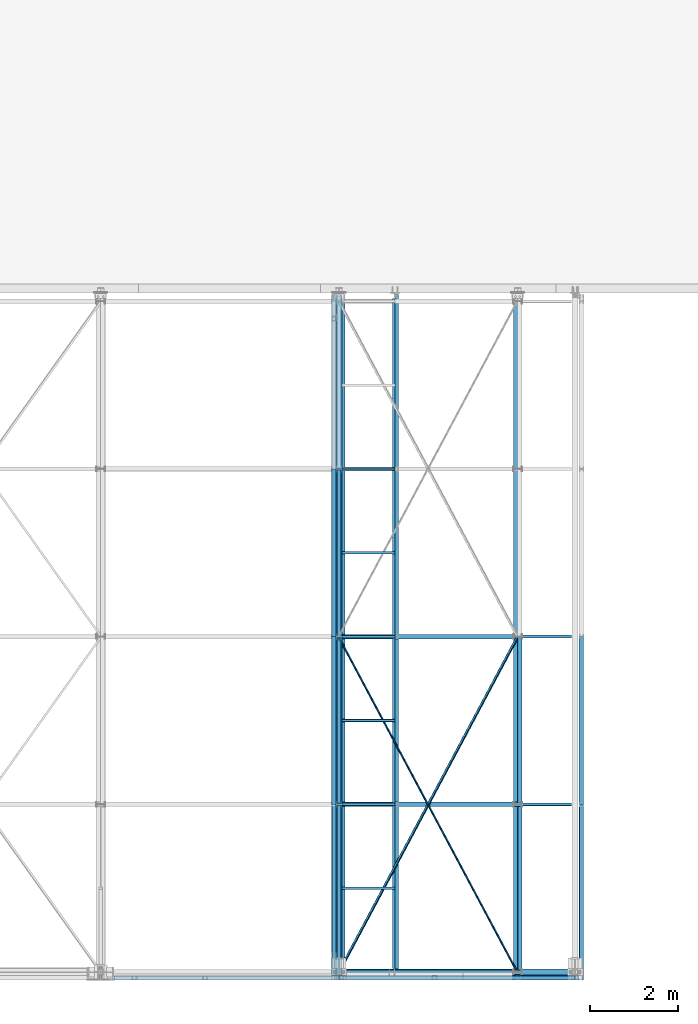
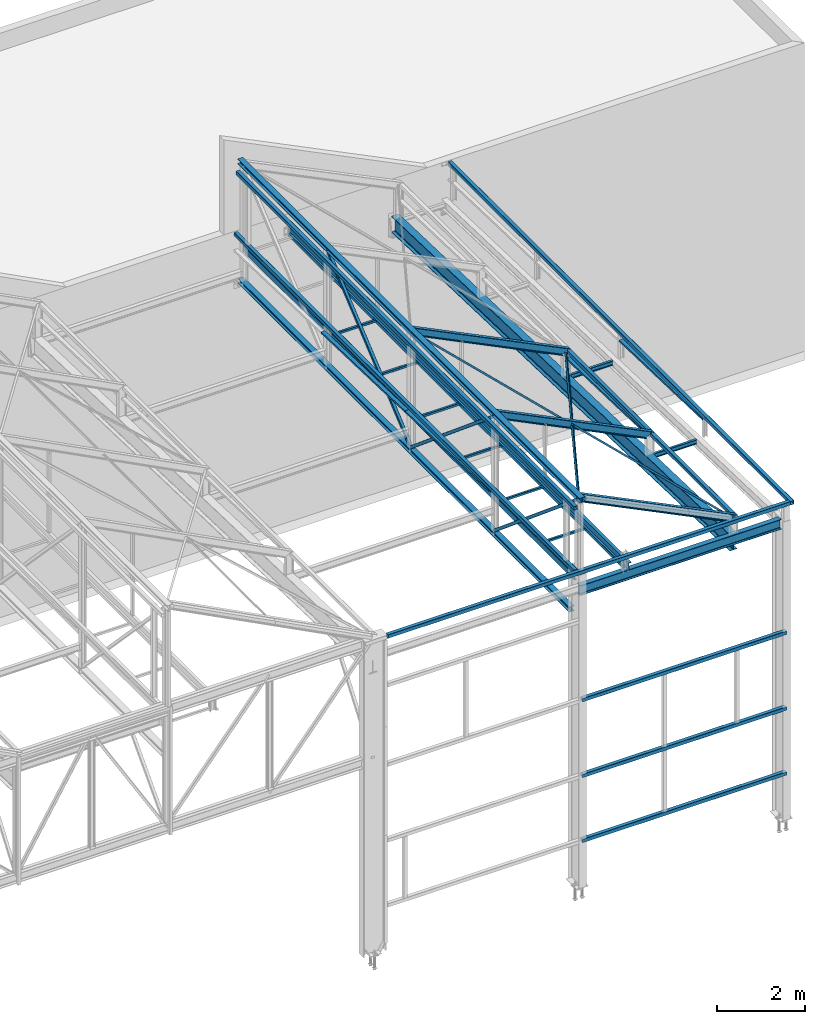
# One storey, part 36 of 123: 31 beams, 6 members, 37 elements without a shape of their own.
"""IFC2X3 building model written with IfcOpenShell, lengths in millimetres."""

from ifc_helpers import new_model, si_unit, frame, origin_with_axes, origin_2d_with_axis, place, context, subcontext, project, spatial, polyline, hollow_rectangle, i_section, l_section, u_section, outline, extrude, boolean, clip, halfspace, material, type_object, element, aggregate, save


model = new_model("IFC2X3")

# Units and contexts
model_context = context("Model", 3, precision=1e-05, world=origin_with_axes())
body_context = subcontext(model_context, "Body", "Model", "MODEL_VIEW")
ifc_project = project(units=[si_unit("LENGTHUNIT", "METRE", prefix="MILLI"), si_unit("AREAUNIT", "SQUARE_METRE"), si_unit("VOLUMEUNIT", "CUBIC_METRE"), si_unit("MASSUNIT", "GRAM", prefix="KILO"), si_unit("TIMEUNIT", "SECOND"), si_unit("PLANEANGLEUNIT", "RADIAN"), si_unit("SOLIDANGLEUNIT", "STERADIAN"), si_unit("THERMODYNAMICTEMPERATUREUNIT", "DEGREE_CELSIUS"), si_unit("LUMINOUSINTENSITYUNIT", "LUMEN")], contexts=[model_context])

# Site, building, storey
site_placement = place(None, origin_with_axes())
site = spatial("IfcSite", under=ifc_project, at=site_placement, Name="Undefined", CompositionType="ELEMENT")
building_placement = place(site_placement, origin_with_axes())
building = spatial("IfcBuilding", under=site, at=building_placement, Name="Undefined", CompositionType="ELEMENT")
storey_placement = place(building_placement, origin_with_axes())
storey = spatial("IfcBuildingStorey", under=building, at=storey_placement, Name="Undefined", CompositionType="ELEMENT", Elevation=0.0)

# Assembly, beam
assembly_1_placement = place(storey_placement, origin_with_axes())
assembly_1 = element("IfcElementAssembly", 1, at=assembly_1_placement, inside=storey, Name="Steel Assembly", AssemblyPlace="NOTDEFINED", PredefinedType="RIGID_FRAME")
ifc_material_1 = material(Name="STEEL/S235-E24")
beam_type_1 = type_object("IfcBeamType", Name="UPF-100*50*4", PredefinedType="NOTDEFINED")
beam_1_placement = place(assembly_1_placement, frame((39775.0000000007, 3799.99999999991, 8410.85601504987), z_axis=(1.0, 0.0, 0.0), x_axis=(0.0, 0.999506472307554, -0.0314135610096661)))
beam_1 = element("IfcBeam", 2, at=beam_1_placement, type_object=beam_type_1, material=ifc_material_1, Name="LISSE CONTREBARDAGE", ObjectType="UPF-100*50*4", context=body_context, shape_type="SweptSolid", body=[
    extrude(u_section(Depth=100.0, FlangeWidth=50.0, WebThickness=4.0, FlangeThickness=4.0, at=origin_2d_with_axis()), frame((3801.87643069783, 2.63808171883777e-14, 0.0), z_axis=(-1.0, 0.0, 0.0), x_axis=(0.0, -1.0, 0.0)), (0.0, 0.0, 1.0), 3801.9),
])
aggregate(assembly_1, [beam_1])

assembly_2_placement = place(storey_placement, origin_with_axes())
assembly_2 = element("IfcElementAssembly", 3, at=assembly_2_placement, inside=storey, Name="Steel Assembly", AssemblyPlace="NOTDEFINED", PredefinedType="RIGID_FRAME")
beam_2_placement = place(assembly_2_placement, frame((34163.5000000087, 7600.0, 8291.42237510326), z_axis=(1.0, 0.0, 0.0), x_axis=(0.0, 0.999506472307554, -0.0314135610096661)))
beam_2 = element("IfcBeam", 4, at=beam_2_placement, type_object=beam_type_1, material=ifc_material_1, Name="LISSE CONTREBARDAGE", ObjectType="UPF-100*50*4", context=body_context, shape_type="SweptSolid", body=[
    extrude(u_section(Depth=100.0, FlangeWidth=50.0, WebThickness=4.0, FlangeThickness=4.0, at=origin_2d_with_axis()), frame((3801.87643069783, 2.63808171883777e-14, 0.0), z_axis=(-1.0, 0.0, 0.0), x_axis=(0.0, -1.0, 0.0)), (0.0, 0.0, 1.0), 3801.9),
])
aggregate(assembly_2, [beam_2])

assembly_3_placement = place(storey_placement, origin_with_axes())
assembly_3 = element("IfcElementAssembly", 5, at=assembly_3_placement, inside=storey, Name="Steel Assembly", AssemblyPlace="NOTDEFINED", PredefinedType="RIGID_FRAME")
beam_3_placement = place(assembly_3_placement, frame((34163.5000000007, 3800.0, 8410.85601504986), z_axis=(1.0, 0.0, 0.0), x_axis=(0.0, 0.999506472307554, -0.0314135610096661)))
beam_3 = element("IfcBeam", 6, at=beam_3_placement, type_object=beam_type_1, material=ifc_material_1, Name="LISSE CONTREBARDAGE", ObjectType="UPF-100*50*4", context=body_context, shape_type="SweptSolid", body=[
    extrude(u_section(Depth=100.0, FlangeWidth=50.0, WebThickness=4.0, FlangeThickness=4.0, at=origin_2d_with_axis()), frame((3801.87643069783, 2.63808171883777e-14, 0.0), z_axis=(-1.0, 0.0, 0.0), x_axis=(0.0, -1.0, 0.0)), (0.0, 0.0, 1.0), 3801.9),
])
aggregate(assembly_3, [beam_3])

assembly_4_placement = place(storey_placement, origin_with_axes())
assembly_4 = element("IfcElementAssembly", 7, at=assembly_4_placement, inside=storey, Name="Steel Assembly", AssemblyPlace="NOTDEFINED", PredefinedType="RIGID_FRAME")
beam_4_placement = place(assembly_4_placement, frame((38380.0000000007, 3800.0, 8410.85601504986), z_axis=(1.0, 0.0, 0.0), x_axis=(0.0, 0.999506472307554, -0.0314135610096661)))
beam_4 = element("IfcBeam", 8, at=beam_4_placement, type_object=beam_type_1, material=ifc_material_1, Name="LISSE CONTREBARDAGE", ObjectType="UPF-100*50*4", context=body_context, shape_type="SweptSolid", body=[
    extrude(u_section(Depth=100.0, FlangeWidth=50.0, WebThickness=4.0, FlangeThickness=4.0, at=origin_2d_with_axis()), frame((3801.87643069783, 2.63808171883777e-14, 0.0), z_axis=(-1.0, 0.0, 0.0), x_axis=(0.0, -1.0, 0.0)), (0.0, 0.0, 1.0), 3801.9),
])
aggregate(assembly_4, [beam_4])

assembly_5_placement = place(storey_placement, origin_with_axes())
assembly_5 = element("IfcElementAssembly", 9, at=assembly_5_placement, inside=storey, Name="Steel Assembly", AssemblyPlace="NOTDEFINED", PredefinedType="RIGID_FRAME")
beam_5_placement = place(assembly_5_placement, frame((39775.0000000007, 3798.76352446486, 8410.85601504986), z_axis=(1.0, 0.0, 0.0), x_axis=(0.0, 0.999506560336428, -0.0314107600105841)))
beam_5 = element("IfcBeam", 10, at=beam_5_placement, type_object=beam_type_1, material=ifc_material_1, Name="LISSE CONTREBARDAGE", ObjectType="UPF-100*50*4", context=body_context, shape_type="SweptSolid", body=[
    extrude(u_section(Depth=100.0, FlangeWidth=50.0, WebThickness=4.0, FlangeThickness=4.0, at=origin_2d_with_axis()), frame((3802.31626691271, 0.0, 0.0), z_axis=(-1.0, 0.0, 0.0), x_axis=(0.0, -1.0, 0.0)), (0.0, 0.0, 1.0), 3802.3),
])
aggregate(assembly_5, [beam_5])

assembly_6_placement = place(storey_placement, origin_with_axes())
assembly_6 = element("IfcElementAssembly", 11, at=assembly_6_placement, inside=storey, Name="Steel Assembly", AssemblyPlace="NOTDEFINED", PredefinedType="RIGID_FRAME")
ifc_material_2 = material(Name="STEEL/S275-E28")
beam_type_2 = type_object("IfcBeamType", Name="IPE450", PredefinedType="NOTDEFINED")
beam_6_placement = place(assembly_6_placement, frame((38330.0000000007, -3.57705051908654, 7825.00320784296), z_axis=(0.0, -0.0314107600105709, -0.999506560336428), x_axis=(0.0, 0.999506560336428, -0.0314107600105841)))
beam_6 = element("IfcBeam", 12, at=beam_6_placement, type_object=beam_type_2, material=ifc_material_2, Name="TRAVERSE", ObjectType="IPE450", context=body_context, shape_type="Clipping", body=[
    clip(extrude(i_section(OverallWidth=190.0, OverallDepth=450.0, WebThickness=9.399999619, FlangeThickness=14.60000038, FilletRadius=21.0, at=origin_2d_with_axis()), frame((15385.9266054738, 0.0, 1.06761312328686e-13), z_axis=(-1.0, 0.0, 0.0), x_axis=(0.0, -1.0, 0.0)), (0.0, 0.0, 1.0), 15385.9), halfspace(frame((15354.5342497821, -9.60426405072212e-10, -263.091456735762), z_axis=(-0.999390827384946, 0.0, 0.0348994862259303), x_axis=(0.0, 1.0, 0.0)), True)),
])
aggregate(assembly_6, [beam_6])

assembly_7_placement = place(storey_placement, origin_with_axes())
assembly_7 = element("IfcElementAssembly", 13, at=assembly_7_placement, inside=storey, Name="Steel Assembly", AssemblyPlace="NOTDEFINED", PredefinedType="RIGID_FRAME")
beam_type_3 = type_object("IfcBeamType", Name="TUBE-C-60*60*3", PredefinedType="NOTDEFINED")
beam_7_placement = place(assembly_7_placement, frame((34351.5001701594, 9500.0, 8015.0), z_axis=(0.0, -1.0, 0.0), x_axis=(1.0, 0.0, 0.0)))
beam_7 = element("IfcBeam", 14, at=beam_7_placement, type_object=beam_type_3, material=ifc_material_1, Name="SOLIVE", ObjectType="TUBE-C-60*60*3", context=body_context, shape_type="SweptSolid", body=[
    extrude(hollow_rectangle(XDim=60.0, YDim=60.0, WallThickness=3.0, InnerFilletRadius=3.0, OuterFilletRadius=6.0, at=origin_2d_with_axis()), frame((1194.99154388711, 0.0, 0.0), z_axis=(-1.0, 0.0, 0.0), x_axis=(0.0, -1.0, 0.0)), (0.0, 0.0, 1.0), 1195.0),
])
aggregate(assembly_7, [beam_7])

assembly_8_placement = place(storey_placement, origin_with_axes())
assembly_8 = element("IfcElementAssembly", 15, at=assembly_8_placement, inside=storey, Name="Steel Assembly", AssemblyPlace="NOTDEFINED", PredefinedType="RIGID_FRAME")
beam_8_placement = place(assembly_8_placement, frame((34351.5001701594, 5700.0, 8015.0), z_axis=(0.0, -1.0, 0.0), x_axis=(1.0, 0.0, 0.0)))
beam_8 = element("IfcBeam", 16, at=beam_8_placement, type_object=beam_type_3, material=ifc_material_1, Name="SOLIVE", ObjectType="TUBE-C-60*60*3", context=body_context, shape_type="SweptSolid", body=[
    extrude(hollow_rectangle(XDim=60.0, YDim=60.0, WallThickness=3.0, InnerFilletRadius=3.0, OuterFilletRadius=6.0, at=origin_2d_with_axis()), frame((1194.99154388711, 0.0, 0.0), z_axis=(-1.0, 0.0, 0.0), x_axis=(0.0, -1.0, 0.0)), (0.0, 0.0, 1.0), 1195.0),
])
aggregate(assembly_8, [beam_8])

assembly_9_placement = place(storey_placement, origin_with_axes())
assembly_9 = element("IfcElementAssembly", 17, at=assembly_9_placement, inside=storey, Name="Steel Assembly", AssemblyPlace="NOTDEFINED", PredefinedType="RIGID_FRAME")
beam_9_placement = place(assembly_9_placement, frame((34351.5001701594, 1900.0, 8015.0), z_axis=(0.0, -1.0, 0.0), x_axis=(1.0, 0.0, 0.0)))
beam_9 = element("IfcBeam", 18, at=beam_9_placement, type_object=beam_type_3, material=ifc_material_1, Name="SOLIVE", ObjectType="TUBE-C-60*60*3", context=body_context, shape_type="SweptSolid", body=[
    extrude(hollow_rectangle(XDim=60.0, YDim=60.0, WallThickness=3.0, InnerFilletRadius=3.0, OuterFilletRadius=6.0, at=origin_2d_with_axis()), frame((1194.99154388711, 0.0, 0.0), z_axis=(-1.0, 0.0, 0.0), x_axis=(0.0, -1.0, 0.0)), (0.0, 0.0, 1.0), 1195.0),
])
aggregate(assembly_9, [beam_9])

assembly_10_placement = place(storey_placement, origin_with_axes())
assembly_10 = element("IfcElementAssembly", 19, at=assembly_10_placement, inside=storey, Name="Steel Assembly", AssemblyPlace="NOTDEFINED", PredefinedType="RIGID_FRAME")
beam_10_placement = place(assembly_10_placement, frame((34351.5001701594, 11400.0, 8015.0), z_axis=(0.0, -1.0, 0.0), x_axis=(1.0, 0.0, 0.0)))
beam_10 = element("IfcBeam", 20, at=beam_10_placement, type_object=beam_type_3, material=ifc_material_1, Name="SOLIVE", ObjectType="TUBE-C-60*60*3", context=body_context, shape_type="SweptSolid", body=[
    extrude(hollow_rectangle(XDim=60.0, YDim=60.0, WallThickness=3.0, InnerFilletRadius=3.0, OuterFilletRadius=6.0, at=origin_2d_with_axis()), frame((1194.99154388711, 0.0, 0.0), z_axis=(-1.0, 0.0, 0.0), x_axis=(0.0, -1.0, 0.0)), (0.0, 0.0, 1.0), 1195.0),
])
aggregate(assembly_10, [beam_10])

assembly_11_placement = place(storey_placement, origin_with_axes())
assembly_11 = element("IfcElementAssembly", 21, at=assembly_11_placement, inside=storey, Name="Steel Assembly", AssemblyPlace="NOTDEFINED", PredefinedType="RIGID_FRAME")
beam_11_placement = place(assembly_11_placement, frame((34351.5001701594, 7600.0, 8015.0), z_axis=(0.0, -1.0, 0.0), x_axis=(1.0, 0.0, 0.0)))
beam_11 = element("IfcBeam", 22, at=beam_11_placement, type_object=beam_type_3, material=ifc_material_1, Name="SOLIVE", ObjectType="TUBE-C-60*60*3", context=body_context, shape_type="SweptSolid", body=[
    extrude(hollow_rectangle(XDim=60.0, YDim=60.0, WallThickness=3.0, InnerFilletRadius=3.0, OuterFilletRadius=6.0, at=origin_2d_with_axis()), frame((1194.99154388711, 0.0, 0.0), z_axis=(-1.0, 0.0, 0.0), x_axis=(0.0, -1.0, 0.0)), (0.0, 0.0, 1.0), 1195.0),
])
aggregate(assembly_11, [beam_11])

assembly_12_placement = place(storey_placement, origin_with_axes())
assembly_12 = element("IfcElementAssembly", 23, at=assembly_12_placement, inside=storey, Name="Steel Assembly", AssemblyPlace="NOTDEFINED", PredefinedType="RIGID_FRAME")
beam_12_placement = place(assembly_12_placement, frame((34351.5001701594, 3800.0, 8015.0), z_axis=(0.0, -1.0, 0.0), x_axis=(1.0, 0.0, 0.0)))
beam_12 = element("IfcBeam", 24, at=beam_12_placement, type_object=beam_type_3, material=ifc_material_1, Name="SOLIVE", ObjectType="TUBE-C-60*60*3", context=body_context, shape_type="SweptSolid", body=[
    extrude(hollow_rectangle(XDim=60.0, YDim=60.0, WallThickness=3.0, InnerFilletRadius=3.0, OuterFilletRadius=6.0, at=origin_2d_with_axis()), frame((1194.99154388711, 0.0, 0.0), z_axis=(-1.0, 0.0, 0.0), x_axis=(0.0, -1.0, 0.0)), (0.0, 0.0, 1.0), 1195.0),
])
aggregate(assembly_12, [beam_12])

assembly_13_placement = place(storey_placement, origin_with_axes())
assembly_13 = element("IfcElementAssembly", 25, at=assembly_13_placement, inside=storey, Name="Steel Assembly", AssemblyPlace="NOTDEFINED", PredefinedType="RIGID_FRAME")
beam_type_4 = type_object("IfcBeamType", Name="UPF-300*82.5*6", PredefinedType="NOTDEFINED")
beam_13_placement = place(assembly_13_placement, frame((35587.7417140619, 15360.0000093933, 8090.0), z_axis=(0.0, 0.0, -1.0), x_axis=(0.0, -1.0, 0.0)))
beam_13 = element("IfcBeam", 26, at=beam_13_placement, type_object=beam_type_4, material=ifc_material_1, Name="LONGERON", ObjectType="UPF-300*82.5*6", context=body_context, shape_type="CSG", body=[
    boolean("DIFFERENCE", extrude(u_section(Depth=300.0, FlangeWidth=82.5, WebThickness=6.0, FlangeThickness=6.0, at=origin_2d_with_axis()), frame((15430.0000255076, 0.0, 0.0), z_axis=(-1.0, 0.0, 0.0), x_axis=(0.0, -1.0, 0.0)), (0.0, 0.0, 1.0), 15430.0), extrude(outline(polyline([(0.0, 0.0), (110.0, 0.0), (110.0, 150.000183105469), (0.0, 150.000183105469), (0.0, 0.0)])), frame((15279.9998398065, -44.0, 40.0), z_axis=(0.0, 1.0, 0.0), x_axis=(0.0, 0.0, 1.0)), (0.0, 0.0, 1.0), 88.0)),
])
aggregate(assembly_13, [beam_13])

assembly_14_placement = place(storey_placement, origin_with_axes())
assembly_14 = element("IfcElementAssembly", 27, at=assembly_14_placement, inside=storey, Name="Steel Assembly", AssemblyPlace="NOTDEFINED", PredefinedType="RIGID_FRAME")
beam_type_5 = type_object("IfcBeamType", Name="TUBE-C-100*100*4", PredefinedType="NOTDEFINED")
beam_14_placement = place(assembly_14_placement, frame((34163.4999999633, -70.0000009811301, 10254.999999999), z_axis=(0.0, 0.0, -1.0), x_axis=(0.0, 1.0, 0.0)))
beam_14 = element("IfcBeam", 28, at=beam_14_placement, type_object=beam_type_5, material=ifc_material_1, Name="LISSE ACROTERE", ObjectType="TUBE-C-100*100*4", context=body_context, shape_type="SweptSolid", body=[
    extrude(hollow_rectangle(XDim=100.0, YDim=100.0, WallThickness=4.0, InnerFilletRadius=4.0, OuterFilletRadius=8.0, at=origin_2d_with_axis()), frame((15340.0000000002, 0.0, 0.0), z_axis=(-1.0, 0.0, 0.0), x_axis=(0.0, -1.0, 0.0)), (0.0, 0.0, 1.0), 15340.0),
])
aggregate(assembly_14, [beam_14])

assembly_15_placement = place(storey_placement, origin_with_axes())
assembly_15 = element("IfcElementAssembly", 29, at=assembly_15_placement, inside=storey, Name="Steel Assembly", AssemblyPlace="NOTDEFINED", PredefinedType="RIGID_FRAME")
beam_15_placement = place(assembly_15_placement, frame((34279.9999997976, -129.999801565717, 4949.99999999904), z_axis=(0.0, 0.0, 1.0), x_axis=(1.0, 0.0, 0.0)))
beam_15 = element("IfcBeam", 30, at=beam_15_placement, type_object=beam_type_5, material=ifc_material_1, Name="LISSE CHASSIS", ObjectType="TUBE-C-100*100*4", context=body_context, shape_type="SweptSolid", body=[
    extrude(hollow_rectangle(XDim=100.0, YDim=100.0, WallThickness=4.0, InnerFilletRadius=4.0, OuterFilletRadius=8.0, at=origin_2d_with_axis()), frame((5349.99999998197, 0.0, 0.0), z_axis=(-1.0, 0.0, 0.0), x_axis=(0.0, -1.0, 0.0)), (0.0, 0.0, 1.0), 5350.0),
])
aggregate(assembly_15, [beam_15])

assembly_16_placement = place(storey_placement, origin_with_axes())
assembly_16 = element("IfcElementAssembly", 31, at=assembly_16_placement, inside=storey, Name="Steel Assembly", AssemblyPlace="NOTDEFINED", PredefinedType="RIGID_FRAME")
beam_16_placement = place(assembly_16_placement, frame((34279.9999997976, -129.999801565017, 2850.0), z_axis=(0.0, 0.0, -1.0), x_axis=(1.0, 0.0, 0.0)))
beam_16 = element("IfcBeam", 32, at=beam_16_placement, type_object=beam_type_5, material=ifc_material_1, Name="LISSE CHASSIS", ObjectType="TUBE-C-100*100*4", context=body_context, shape_type="SweptSolid", body=[
    extrude(hollow_rectangle(XDim=100.0, YDim=100.0, WallThickness=4.0, InnerFilletRadius=4.0, OuterFilletRadius=8.0, at=origin_2d_with_axis()), frame((5349.99999998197, 0.0, 0.0), z_axis=(-1.0, 0.0, 0.0), x_axis=(0.0, -1.0, 0.0)), (0.0, 0.0, 1.0), 5350.0),
])
aggregate(assembly_16, [beam_16])

assembly_17_placement = place(storey_placement, origin_with_axes())
assembly_17 = element("IfcElementAssembly", 33, at=assembly_17_placement, inside=storey, Name="Steel Assembly", AssemblyPlace="NOTDEFINED", PredefinedType="RIGID_FRAME")
beam_17_placement = place(assembly_17_placement, frame((34279.9999997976, -129.999801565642, 1049.99999999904), z_axis=(0.0, 0.0, 1.0), x_axis=(1.0, 0.0, 0.0)))
beam_17 = element("IfcBeam", 34, at=beam_17_placement, type_object=beam_type_5, material=ifc_material_1, Name="LISSE CHASSIS", ObjectType="TUBE-C-100*100*4", context=body_context, shape_type="SweptSolid", body=[
    extrude(hollow_rectangle(XDim=100.0, YDim=100.0, WallThickness=4.0, InnerFilletRadius=4.0, OuterFilletRadius=8.0, at=origin_2d_with_axis()), frame((5349.99999998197, 0.0, 0.0), z_axis=(-1.0, 0.0, 0.0), x_axis=(0.0, -1.0, 0.0)), (0.0, 0.0, 1.0), 5350.0),
])
aggregate(assembly_17, [beam_17])

assembly_18_placement = place(storey_placement, origin_with_axes())
assembly_18 = element("IfcElementAssembly", 35, at=assembly_18_placement, inside=storey, Name="Steel Assembly", AssemblyPlace="NOTDEFINED", PredefinedType="RIGID_FRAME")
beam_18_placement = place(assembly_18_placement, frame((34163.5, -75.0, 8500.0), z_axis=(0.0, 0.0, 1.0), x_axis=(0.0, 1.0, 0.0)))
beam_18 = element("IfcBeam", 36, at=beam_18_placement, type_object=beam_type_5, material=ifc_material_1, Name="LISSE ACROTERE", ObjectType="TUBE-C-100*100*4", context=body_context, shape_type="SweptSolid", body=[
    extrude(hollow_rectangle(XDim=100.0, YDim=100.0, WallThickness=4.0, InnerFilletRadius=4.0, OuterFilletRadius=8.0, at=origin_2d_with_axis()), frame((15435.0, 0.0, 0.0), z_axis=(-1.0, 0.0, 0.0), x_axis=(0.0, -1.0, 0.0)), (0.0, 0.0, 1.0), 15435.0),
])
aggregate(assembly_18, [beam_18])

assembly_19_placement = place(storey_placement, origin_with_axes())
assembly_19 = element("IfcElementAssembly", 37, at=assembly_19_placement, inside=storey, Name="Steel Assembly", AssemblyPlace="NOTDEFINED", PredefinedType="RIGID_FRAME")
beam_19_placement = place(assembly_19_placement, frame((39775.0, -180.0, 8500.0), z_axis=(0.0, 0.0, 1.0), x_axis=(0.0, 1.0, 0.0)))
beam_19 = element("IfcBeam", 38, at=beam_19_placement, type_object=beam_type_5, material=ifc_material_1, Name="LISSE ACROTERE", ObjectType="TUBE-C-100*100*4", context=body_context, shape_type="SweptSolid", body=[
    extrude(hollow_rectangle(XDim=100.0, YDim=100.0, WallThickness=4.0, InnerFilletRadius=4.0, OuterFilletRadius=8.0, at=origin_2d_with_axis()), frame((15540.0, 0.0, 0.0), z_axis=(-1.0, 0.0, 0.0), x_axis=(0.0, -1.0, 0.0)), (0.0, 0.0, 1.0), 15540.0),
])
aggregate(assembly_19, [beam_19])

assembly_20_placement = place(storey_placement, origin_with_axes())
assembly_20 = element("IfcElementAssembly", 39, at=assembly_20_placement, inside=storey, Name="Steel Assembly", AssemblyPlace="NOTDEFINED", PredefinedType="RIGID_FRAME")
beam_20_placement = place(assembly_20_placement, frame((29180.0, -130.0, 8500.0), z_axis=(0.0, 0.0, 1.0), x_axis=(1.0, 0.0, 0.0)))
beam_20 = element("IfcBeam", 40, at=beam_20_placement, type_object=beam_type_5, material=ifc_material_1, Name="LISSE ACROTERE", ObjectType="TUBE-C-100*100*4", context=body_context, shape_type="SweptSolid", body=[
    extrude(hollow_rectangle(XDim=100.0, YDim=100.0, WallThickness=4.0, InnerFilletRadius=4.0, OuterFilletRadius=8.0, at=origin_2d_with_axis()), frame((10545.0, 0.0, 0.0), z_axis=(-1.0, 0.0, 0.0), x_axis=(0.0, -1.0, 0.0)), (0.0, 0.0, 1.0), 10545.0),
])
aggregate(assembly_20, [beam_20])

assembly_21_placement = place(storey_placement, origin_with_axes())
assembly_21 = element("IfcElementAssembly", 41, at=assembly_21_placement, inside=storey, Name="Steel Assembly", AssemblyPlace="NOTDEFINED", PredefinedType="RIGID_FRAME")
beam_21_placement = place(assembly_21_placement, frame((38380.0, 3846.0, 8500.0), z_axis=(0.0, 0.0, 1.0), x_axis=(0.0, 1.0, 0.0)))
beam_21 = element("IfcBeam", 42, at=beam_21_placement, type_object=beam_type_5, material=ifc_material_1, Name="LISSE ACROTERE", ObjectType="TUBE-C-100*100*4", context=body_context, shape_type="SweptSolid", body=[
    extrude(hollow_rectangle(XDim=100.0, YDim=100.0, WallThickness=4.0, InnerFilletRadius=4.0, OuterFilletRadius=8.0, at=origin_2d_with_axis()), frame((3708.0, 0.0, 0.0), z_axis=(-1.0, 0.0, 0.0), x_axis=(0.0, -1.0, 0.0)), (0.0, 0.0, 1.0), 3708.0),
])
aggregate(assembly_21, [beam_21])

assembly_22_placement = place(storey_placement, origin_with_axes())
assembly_22 = element("IfcElementAssembly", 43, at=assembly_22_placement, inside=storey, Name="Steel Assembly", AssemblyPlace="NOTDEFINED", PredefinedType="RIGID_FRAME")
beam_22_placement = place(assembly_22_placement, frame((38380.0, 46.0, 8500.0), z_axis=(0.0, 0.0, 1.0), x_axis=(0.0, 1.0, 0.0)))
beam_22 = element("IfcBeam", 44, at=beam_22_placement, type_object=beam_type_5, material=ifc_material_1, Name="LISSE ACROTERE", ObjectType="TUBE-C-100*100*4", context=body_context, shape_type="SweptSolid", body=[
    extrude(hollow_rectangle(XDim=100.0, YDim=100.0, WallThickness=4.0, InnerFilletRadius=4.0, OuterFilletRadius=8.0, at=origin_2d_with_axis()), frame((3708.0, 0.0, 0.0), z_axis=(-1.0, 0.0, 0.0), x_axis=(0.0, -1.0, 0.0)), (0.0, 0.0, 1.0), 3708.0),
])
aggregate(assembly_22, [beam_22])

# Assembly, member
assembly_23_placement = place(storey_placement, origin_with_axes())
assembly_23 = element("IfcElementAssembly", 45, at=assembly_23_placement, inside=storey, Name="Steel Assembly", AssemblyPlace="NOTDEFINED", PredefinedType="RIGID_FRAME")
member_type_1 = type_object("IfcMemberType", Name="TUBE-C-80*80*4", PredefinedType="NOTDEFINED")
member_1_placement = place(assembly_23_placement, frame((34280.0000000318, 3800.00552228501, 10423.0), z_axis=(-1.0, 0.0, 0.0), x_axis=(0.0, 0.767591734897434, -0.640939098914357)))
member_1 = element("IfcMember", 46, at=member_1_placement, type_object=member_type_1, material=ifc_material_1, Name="DIAGONALE", ObjectType="TUBE-C-80*80*4", context=body_context, shape_type="SweptSolid", body=[
    extrude(hollow_rectangle(XDim=80.0, YDim=80.0, WallThickness=4.0, InnerFilletRadius=4.0, OuterFilletRadius=8.0, at=origin_2d_with_axis()), frame((4950.5483534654, 0.0, 0.0), z_axis=(-1.0, 0.0, 0.0), x_axis=(0.0, -1.0, 0.0)), (0.0, 0.0, 1.0), 4950.5),
])
aggregate(assembly_23, [member_1])

assembly_24_placement = place(storey_placement, origin_with_axes())
assembly_24 = element("IfcElementAssembly", 47, at=assembly_24_placement, inside=storey, Name="Steel Assembly", AssemblyPlace="NOTDEFINED", PredefinedType="RIGID_FRAME")
member_2_placement = place(assembly_24_placement, frame((34280.0000000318, 0.00552228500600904, 10423.0), z_axis=(-1.0, 0.0, 0.0), x_axis=(0.0, 0.767591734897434, -0.640939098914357)))
member_2 = element("IfcMember", 48, at=member_2_placement, type_object=member_type_1, material=ifc_material_1, Name="DIAGONALE", ObjectType="TUBE-C-80*80*4", context=body_context, shape_type="SweptSolid", body=[
    extrude(hollow_rectangle(XDim=80.0, YDim=80.0, WallThickness=4.0, InnerFilletRadius=4.0, OuterFilletRadius=8.0, at=origin_2d_with_axis()), frame((4950.5483534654, 0.0, 0.0), z_axis=(-1.0, 0.0, 0.0), x_axis=(0.0, -1.0, 0.0)), (0.0, 0.0, 1.0), 4950.5),
])
aggregate(assembly_24, [member_2])

assembly_25_placement = place(storey_placement, origin_with_axes())
assembly_25 = element("IfcElementAssembly", 49, at=assembly_25_placement, inside=storey, Name="Steel Assembly", AssemblyPlace="NOTDEFINED", PredefinedType="RIGID_FRAME")
member_3_placement = place(assembly_25_placement, frame((34280.0000000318, 11400.0000000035, 10423.0), z_axis=(-1.0, 0.0, 0.0), x_axis=(0.0, -0.767591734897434, -0.640939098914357)))
member_3 = element("IfcMember", 50, at=member_3_placement, type_object=member_type_1, material=ifc_material_1, Name="DIAGONALE", ObjectType="TUBE-C-80*80*4", context=body_context, shape_type="SweptSolid", body=[
    extrude(hollow_rectangle(XDim=80.0, YDim=80.0, WallThickness=4.0, InnerFilletRadius=4.0, OuterFilletRadius=8.0, at=origin_2d_with_axis()), frame((4950.5483534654, 0.0, 0.0), z_axis=(-1.0, 0.0, 0.0), x_axis=(0.0, -1.0, 0.0)), (0.0, 0.0, 1.0), 4950.5),
])
aggregate(assembly_25, [member_3])

# Assembly, beam
assembly_26_placement = place(storey_placement, origin_with_axes())
assembly_26 = element("IfcElementAssembly", 51, at=assembly_26_placement, inside=storey, Name="Steel Assembly", AssemblyPlace="NOTDEFINED", PredefinedType="RIGID_FRAME")
beam_type_6 = type_object("IfcBeamType", Name="IPE120", PredefinedType="NOTDEFINED")
beam_23_placement = place(assembly_26_placement, frame((38435.0, 7599.99999999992, 7751.13072963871), z_axis=(0.0, 0.0314107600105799, 0.999506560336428), x_axis=(1.0, 0.0, 0.0)))
beam_23 = element("IfcBeam", 52, at=beam_23_placement, type_object=beam_type_6, material=ifc_material_2, Name="PANNE", ObjectType="IPE120", context=body_context, shape_type="SweptSolid", body=[
    extrude(i_section(OverallWidth=64.0, OverallDepth=120.0, WebThickness=4.400000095, FlangeThickness=6.300000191, FilletRadius=7.0, at=origin_2d_with_axis()), frame((1120.00000000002, 0.0, 0.0), z_axis=(-1.0, 0.0, 0.0), x_axis=(0.0, -1.0, 0.0)), (0.0, 0.0, 1.0), 1120.0),
])
aggregate(assembly_26, [beam_23])

assembly_27_placement = place(storey_placement, origin_with_axes())
assembly_27 = element("IfcElementAssembly", 53, at=assembly_27_placement, inside=storey, Name="Steel Assembly", AssemblyPlace="NOTDEFINED", PredefinedType="RIGID_FRAME")
beam_24_placement = place(assembly_27_placement, frame((38435.0, 3799.99999999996, 7870.55056696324), z_axis=(0.0, 0.0314107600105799, 0.999506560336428), x_axis=(1.0, 0.0, 0.0)))
beam_24 = element("IfcBeam", 54, at=beam_24_placement, type_object=beam_type_6, material=ifc_material_2, Name="PANNE", ObjectType="IPE120", context=body_context, shape_type="SweptSolid", body=[
    extrude(i_section(OverallWidth=64.0, OverallDepth=120.0, WebThickness=4.400000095, FlangeThickness=6.300000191, FilletRadius=7.0, at=origin_2d_with_axis()), frame((1120.00000000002, 0.0, 0.0), z_axis=(-1.0, 0.0, 0.0), x_axis=(0.0, -1.0, 0.0)), (0.0, 0.0, 1.0), 1120.0),
])
aggregate(assembly_27, [beam_24])

assembly_28_placement = place(storey_placement, origin_with_axes())
assembly_28 = element("IfcElementAssembly", 55, at=assembly_28_placement, inside=storey, Name="Steel Assembly", AssemblyPlace="NOTDEFINED", PredefinedType="RIGID_FRAME")
beam_type_7 = type_object("IfcBeamType", Name="UPF-150*70*5", PredefinedType="NOTDEFINED")
beam_25_placement = place(assembly_28_placement, frame((34381.500055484, 320.000000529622, 8025.0), z_axis=(0.0, 0.0, 1.0), x_axis=(0.0, 1.0, 0.0)))
beam_25 = element("IfcBeam", 56, at=beam_25_placement, type_object=beam_type_7, material=ifc_material_1, Name="LONGERON", ObjectType="UPF-150*70*5", context=body_context, shape_type="SweptSolid", body=[
    extrude(u_section(Depth=150.0, FlangeWidth=70.0, WebThickness=5.0, FlangeThickness=5.0, at=origin_2d_with_axis()), frame((15040.0001606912, 0.0, 0.0), z_axis=(-1.0, 0.0, 0.0), x_axis=(0.0, -1.0, 0.0)), (0.0, 0.0, 1.0), 15040.0),
])
aggregate(assembly_28, [beam_25])

assembly_29_placement = place(storey_placement, origin_with_axes())
assembly_29 = element("IfcElementAssembly", 57, at=assembly_29_placement, inside=storey, Name="Steel Assembly", AssemblyPlace="NOTDEFINED", PredefinedType="RIGID_FRAME")
beam_type_8 = type_object("IfcBeamType", Name="L50*5", PredefinedType="NOTDEFINED")
beam_26_placement = place(assembly_29_placement, frame((35521.491600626, 15260.0001696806, 8075.0), z_axis=(-1.0, 0.0, 0.0), x_axis=(0.0, -1.0, 0.0)))
beam_26 = element("IfcBeam", 58, at=beam_26_placement, type_object=beam_type_8, material=ifc_material_1, Name="SUPPORT", ObjectType="L50*5", context=body_context, shape_type="SweptSolid", body=[
    extrude(l_section(Depth=50.0, Width=50.0, Thickness=5.0, FilletRadius=7.0, EdgeRadius=3.5, at=origin_2d_with_axis()), frame((15180.0000000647, 0.0, 0.0), z_axis=(-1.0, 0.0, 0.0), x_axis=(0.0, -1.0, 0.0)), (0.0, 0.0, 1.0), 15180.0),
])
aggregate(assembly_29, [beam_26])

assembly_30_placement = place(storey_placement, origin_with_axes())
assembly_30 = element("IfcElementAssembly", 59, at=assembly_30_placement, inside=storey, Name="Steel Assembly", AssemblyPlace="NOTDEFINED", PredefinedType="RIGID_FRAME")
beam_27_placement = place(assembly_30_placement, frame((38329.9999973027, 7600.00000000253, 8487.7334501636), z_axis=(0.441220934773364, -7.0000000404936e-09, 0.897398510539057), x_axis=(-0.458197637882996, -0.859827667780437, 0.225280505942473)))
beam_27 = element("IfcBeam", 60, at=beam_27_placement, type_object=beam_type_8, material=ifc_material_1, Name="STABILITE CVT", ObjectType="L50*5", context=body_context, shape_type="SweptSolid", body=[
    extrude(l_section(Depth=50.0, Width=50.0, Thickness=5.0, FilletRadius=7.0, EdgeRadius=3.5, at=origin_2d_with_axis()), frame((8838.98051436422, -4.90661984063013e-13, -3.63797880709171e-12), z_axis=(-1.0, 0.0, 0.0), x_axis=(0.0, -1.0, 0.0)), (0.0, 0.0, 1.0), 8839.0),
])
aggregate(assembly_30, [beam_27])

assembly_31_placement = place(storey_placement, origin_with_axes())
assembly_31 = element("IfcElementAssembly", 61, at=assembly_31_placement, inside=storey, Name="Steel Assembly", AssemblyPlace="NOTDEFINED", PredefinedType="RIGID_FRAME")
beam_28_placement = place(assembly_31_placement, frame((38329.9999972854, -7.67613528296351e-10, 8487.73345012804), z_axis=(0.441220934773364, -7.0000000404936e-09, 0.897398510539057), x_axis=(-0.458197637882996, 0.859827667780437, 0.225280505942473)))
beam_28 = element("IfcBeam", 62, at=beam_28_placement, type_object=beam_type_8, material=ifc_material_1, Name="STABILITE CVT", ObjectType="L50*5", context=body_context, shape_type="SweptSolid", body=[
    extrude(l_section(Depth=50.0, Width=50.0, Thickness=5.0, FilletRadius=7.0, EdgeRadius=3.5, at=origin_2d_with_axis()), frame((8838.98051436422, -4.90661984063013e-13, -3.63797880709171e-12), z_axis=(-1.0, 0.0, 0.0), x_axis=(0.0, -1.0, 0.0)), (0.0, 0.0, 1.0), 8839.0),
])
aggregate(assembly_31, [beam_28])

assembly_32_placement = place(storey_placement, origin_with_axes())
assembly_32 = element("IfcElementAssembly", 63, at=assembly_32_placement, inside=storey, Name="Steel Assembly", AssemblyPlace="NOTDEFINED", PredefinedType="RIGID_FRAME")
beam_type_9 = type_object("IfcBeamType", Name="IPE270", PredefinedType="NOTDEFINED")
beam_29_placement = place(assembly_32_placement, frame((34280.0, -1.09937804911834, 7914.96977538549), z_axis=(0.0, 0.0314107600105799, 0.999506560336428), x_axis=(1.0, 0.0, 0.0)))
beam_29 = element("IfcBeam", 64, at=beam_29_placement, type_object=beam_type_9, material=ifc_material_2, Name="PANNE", ObjectType="IPE270", context=body_context, shape_type="SweptSolid", body=[
    extrude(i_section(OverallWidth=135.0, OverallDepth=270.0, WebThickness=6.599999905, FlangeThickness=10.19999981, FilletRadius=15.0, at=origin_2d_with_axis()), frame((5275.00000000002, 0.0, 0.0), z_axis=(-1.0, 0.0, 0.0), x_axis=(0.0, -1.0, 0.0)), (0.0, 0.0, 1.0), 5275.0),
])
aggregate(assembly_32, [beam_29])

# Assembly, member
assembly_33_placement = place(storey_placement, origin_with_axes())
assembly_33 = element("IfcElementAssembly", 65, at=assembly_33_placement, inside=storey, Name="Steel Assembly", AssemblyPlace="NOTDEFINED", PredefinedType="RIGID_FRAME")
member_type_2 = type_object("IfcMemberType", Name="IPE200", PredefinedType="NOTDEFINED")
member_4_placement = place(assembly_33_placement, frame((34305.8779065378, -3.19837843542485e-09, 10466.2601489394), z_axis=(0.441220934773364, -7.0000000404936e-09, 0.897398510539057), x_axis=(0.897398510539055, -1.49999999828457e-08, -0.441220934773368)))
member_4 = element("IfcMember", 66, at=member_4_placement, type_object=member_type_2, material=ifc_material_2, Name="TRAVERSE SHED", ObjectType="IPE200", context=body_context, shape_type="Clipping", body=[
    clip(clip(extrude(i_section(OverallWidth=100.0, OverallDepth=200.0, WebThickness=5.599999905, FlangeThickness=8.5, FilletRadius=12.0, at=origin_2d_with_axis()), frame((4652.25219148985, 0.0, 0.0), z_axis=(-1.0, 0.0, 0.0), x_axis=(0.0, -1.0, 0.0)), (0.0, 0.0, 1.0), 4771.1), halfspace(frame((4421.9420250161, 3.19837843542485e-09, -100.0), z_axis=(0.848887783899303, 0.0, -0.528573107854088), x_axis=(0.0, -1.0, 0.0)), False)), halfspace(frame((0.0, 0.0, 100.0), z_axis=(-0.89739851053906, 0.0, -0.44122093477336), x_axis=(0.0, -1.0, 0.0)), False)),
])
aggregate(assembly_33, [member_4])

assembly_34_placement = place(storey_placement, origin_with_axes())
assembly_34 = element("IfcElementAssembly", 67, at=assembly_34_placement, inside=storey, Name="Steel Assembly", AssemblyPlace="NOTDEFINED", PredefinedType="RIGID_FRAME")
member_5_placement = place(assembly_34_placement, frame((34305.8779065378, 7599.9999999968, 10466.2601489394), z_axis=(0.441220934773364, -7.0000000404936e-09, 0.897398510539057), x_axis=(0.897398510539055, -1.49999999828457e-08, -0.441220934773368)))
member_5 = element("IfcMember", 68, at=member_5_placement, type_object=member_type_2, material=ifc_material_2, Name="TRAVERSE SHED", ObjectType="IPE200", context=body_context, shape_type="Clipping", body=[
    clip(clip(extrude(i_section(OverallWidth=100.0, OverallDepth=200.0, WebThickness=5.599999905, FlangeThickness=8.5, FilletRadius=12.0, at=origin_2d_with_axis()), frame((4652.25219148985, 0.0, 0.0), z_axis=(-1.0, 0.0, 0.0), x_axis=(0.0, -1.0, 0.0)), (0.0, 0.0, 1.0), 4771.1), halfspace(frame((4421.9420250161, -7599.9999999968, -100.0), z_axis=(0.848887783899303, 0.0, -0.528573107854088), x_axis=(0.0, -1.0, 0.0)), False)), halfspace(frame((0.0, 0.0, 100.0), z_axis=(-0.89739851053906, 0.0, -0.44122093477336), x_axis=(0.0, -1.0, 0.0)), False)),
])
aggregate(assembly_34, [member_5])

assembly_35_placement = place(storey_placement, origin_with_axes())
assembly_35 = element("IfcElementAssembly", 69, at=assembly_35_placement, inside=storey, Name="Steel Assembly", AssemblyPlace="NOTDEFINED", PredefinedType="RIGID_FRAME")
member_6_placement = place(assembly_35_placement, frame((34305.8779065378, 3799.9999999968, 10466.2601489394), z_axis=(0.441220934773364, -7.0000000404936e-09, 0.897398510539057), x_axis=(0.897398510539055, -1.49999999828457e-08, -0.441220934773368)))
member_6 = element("IfcMember", 70, at=member_6_placement, type_object=member_type_2, material=ifc_material_2, Name="TRAVERSE SHED", ObjectType="IPE200", context=body_context, shape_type="Clipping", body=[
    clip(clip(extrude(i_section(OverallWidth=100.0, OverallDepth=200.0, WebThickness=5.599999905, FlangeThickness=8.5, FilletRadius=12.0, at=origin_2d_with_axis()), frame((4652.25219148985, 0.0, 0.0), z_axis=(-1.0, 0.0, 0.0), x_axis=(0.0, -1.0, 0.0)), (0.0, 0.0, 1.0), 4771.1), halfspace(frame((4421.9420250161, -3799.9999999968, -100.0), z_axis=(0.848887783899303, 0.0, -0.528573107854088), x_axis=(0.0, -1.0, 0.0)), False)), halfspace(frame((0.0, 0.0, 100.0), z_axis=(-0.89739851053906, 0.0, -0.44122093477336), x_axis=(0.0, -1.0, 0.0)), False)),
])
aggregate(assembly_35, [member_6])

# Assembly, beam
assembly_36_placement = place(storey_placement, origin_with_axes())
assembly_36 = element("IfcElementAssembly", 71, at=assembly_36_placement, inside=storey, Name="Steel Assembly", AssemblyPlace="NOTDEFINED", PredefinedType="RIGID_FRAME")
beam_type_10 = type_object("IfcBeamType", Name="HEA140", PredefinedType="NOTDEFINED")
beam_30_placement = place(assembly_36_placement, frame((34280.0, 15360.0, 10489.5), z_axis=(0.0, 0.0, 1.0), x_axis=(0.0, -1.0, 0.0)))
beam_30 = element("IfcBeam", 72, at=beam_30_placement, type_object=beam_type_10, material=ifc_material_2, Name="LONGERON", ObjectType="HEA140", context=body_context, shape_type="SweptSolid", body=[
    extrude(i_section(OverallWidth=140.0, OverallDepth=133.0, WebThickness=5.5, FlangeThickness=8.5, FilletRadius=12.0, at=origin_2d_with_axis()), frame((15520.0, 0.0, 0.0), z_axis=(-1.0, 0.0, 0.0), x_axis=(0.0, -1.0, 0.0)), (0.0, 0.0, 1.0), 15520.0),
])
aggregate(assembly_36, [beam_30])

assembly_37_placement = place(storey_placement, origin_with_axes())
assembly_37 = element("IfcElementAssembly", 73, at=assembly_37_placement, inside=storey, Name="Steel Assembly", AssemblyPlace="NOTDEFINED", PredefinedType="RIGID_FRAME")
beam_31_placement = place(assembly_37_placement, frame((34279.9999999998, 15350.0000000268, 7183.5), z_axis=(0.0, 0.0, 1.0), x_axis=(0.0, -1.0, 0.0)))
beam_31 = element("IfcBeam", 74, at=beam_31_placement, type_object=beam_type_10, material=ifc_material_2, Name="LONGERON", ObjectType="HEA140", context=body_context, shape_type="SweptSolid", body=[
    extrude(i_section(OverallWidth=140.0, OverallDepth=133.0, WebThickness=5.5, FlangeThickness=8.5, FilletRadius=12.0, at=origin_2d_with_axis()), frame((15040.0001606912, 0.0, 0.0), z_axis=(-1.0, 0.0, 0.0), x_axis=(0.0, -1.0, 0.0)), (0.0, 0.0, 1.0), 15040.0),
])
aggregate(assembly_37, [beam_31])

save(model, "model.ifc")
